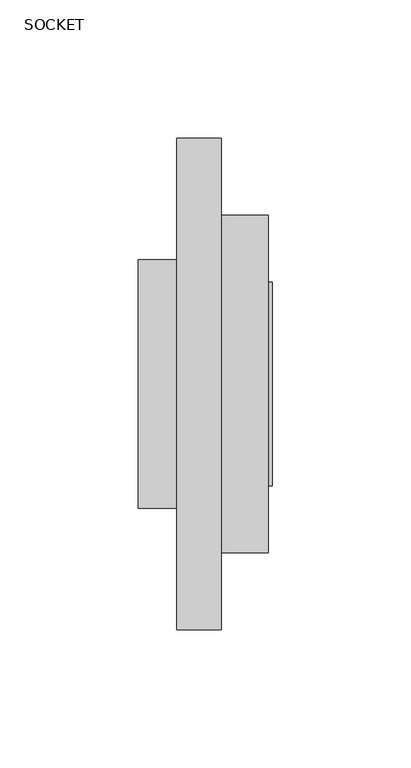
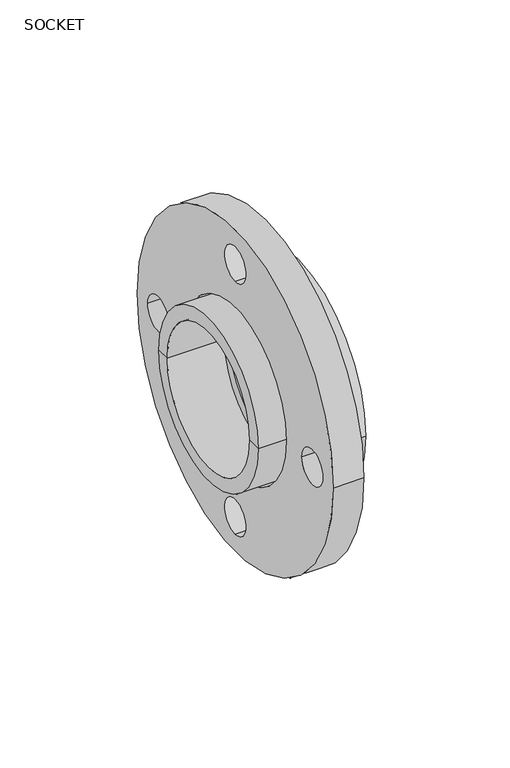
"""IFC4 building model written with IfcOpenShell, lengths in millimetres: valve geometry, Aquatherm - Flange Adapter Socket : SOCKET."""

from ifc_helpers import new_model, si_unit, point, frame, frame_2d, origin, origin_2d, place, context, project, spatial, polyline, circle_curve, trimmed, segment, composite_curve, outline, extrude, source, transform, mapped, element, save
from ifc_brep_helpers import plane_surface, cylinder_surface, revolved_surface, advanced_brep


def socket_53e05073(model_context):
    return source(origin(), model_context, "Body", "SolidModel", [
        extrude(outline(composite_curve([segment(trimmed(circle_curve(origin_2d(), 88.9), [point((-88.9, 0.0))], [point((88.9, 0.0))], False, "CARTESIAN"), True, "CONTINUOUS"), segment(trimmed(circle_curve(origin_2d(), 88.9), [point((88.9, 0.0))], [point((-88.9, 0.0))], False, "CARTESIAN"), True, "CONTINUOUS")], self_intersect=False), holes=[composite_curve([segment(trimmed(circle_curve(origin_2d(), 46.101), [point((-46.101, 0.0))], [point((46.101, 0.0))], True, "CARTESIAN"), True, "CONTINUOUS"), segment(trimmed(circle_curve(origin_2d(), 46.101), [point((46.101, 0.0))], [point((-46.101, 0.0))], True, "CARTESIAN"), True, "CONTINUOUS")], self_intersect=False), composite_curve([segment(trimmed(circle_curve(frame_2d((69.85, 0.0)), 9.525), [point((60.325, 0.0))], [point((79.375, 0.0))], True, "CARTESIAN"), True, "CONTINUOUS"), segment(trimmed(circle_curve(frame_2d((69.85, 0.0)), 9.525), [point((79.375, 0.0))], [point((60.325, 0.0))], True, "CARTESIAN"), True, "CONTINUOUS")], self_intersect=False), composite_curve([segment(trimmed(circle_curve(frame_2d((0.0, -69.85)), 9.525), [point((0.0, -60.325))], [point((0.0, -79.375))], True, "CARTESIAN"), True, "CONTINUOUS"), segment(trimmed(circle_curve(frame_2d((0.0, -69.85)), 9.525), [point((0.0, -79.375))], [point((0.0, -60.325))], True, "CARTESIAN"), True, "CONTINUOUS")], self_intersect=False), composite_curve([segment(trimmed(circle_curve(frame_2d((0.0, 69.85)), 9.525), [point((0.0, 60.325))], [point((0.0, 79.375))], True, "CARTESIAN"), True, "CONTINUOUS"), segment(trimmed(circle_curve(frame_2d((0.0, 69.85)), 9.525), [point((0.0, 79.375))], [point((0.0, 60.325))], True, "CARTESIAN"), True, "CONTINUOUS")], self_intersect=False), composite_curve([segment(trimmed(circle_curve(frame_2d((-69.85, 0.0)), 9.525), [point((-60.325, 0.0))], [point((-79.375, 0.0))], True, "CARTESIAN"), True, "CONTINUOUS"), segment(trimmed(circle_curve(frame_2d((-69.85, 0.0)), 9.525), [point((-79.375, 0.0))], [point((-60.325, 0.0))], True, "CARTESIAN"), True, "CONTINUOUS")], self_intersect=False)]), frame((-16.002, 0.0, 0.0), z_axis=(1.0, 0.0, 0.0), x_axis=(0.0, 1.0, 0.0)), (0.0, 0.0, 1.0), 16.002),
        advanced_brep(
        [(18.542, 31.75, 0.0), (18.542, -31.75, 0.0), (18.542, -36.83, 0.0), (18.542, 36.83, 0.0), (0.0, 31.75, 0.0), (0.0, -31.75, 0.0), (0.0, 37.465, 0.0), (0.0, -37.465, 0.0), (-29.972, 37.465, 0.0), (-29.972, -37.465, 0.0), (-29.972, 44.958, 0.0), (-29.972, -44.958, 0.0), (0.0, 44.958, 0.0), (0.0, -44.958, 0.0), (0.0, 60.96, 0.0), (0.0, -60.96, 0.0), (17.018, 60.96, 0.0), (17.018, -60.96, 0.0), (17.018, 36.83, 0.0), (17.018, -36.83, 0.0)],
        [
            (0, 1, circle_curve(frame((18.542, 0.0, 0.0), z_axis=(-1.0, 0.0, 0.0), x_axis=(0.0, -1.0, 0.0)), 31.75)),
            (1, 2),
            (2, 3, circle_curve(frame((18.542, 0.0, 0.0), z_axis=(1.0, 0.0, 0.0), x_axis=(0.0, -1.0, 0.0)), 36.83)),
            (3, 0),
            (1, 0, circle_curve(frame((18.542, 0.0, 0.0), z_axis=(-1.0, 0.0, 0.0), x_axis=(0.0, -1.0, 0.0)), 31.75)),
            (3, 2, circle_curve(frame((18.542, 0.0, 0.0), z_axis=(1.0, 0.0, 0.0), x_axis=(0.0, -1.0, 0.0)), 36.83)),
            (4, 5, circle_curve(frame((0.0, 0.0, 0.0), z_axis=(-1.0, 0.0, 0.0), x_axis=(0.0, -1.0, 0.0)), 31.75)),
            (5, 1),
            (0, 4),
            (5, 4, circle_curve(frame((0.0, 0.0, 0.0), z_axis=(-1.0, 0.0, 0.0), x_axis=(0.0, -1.0, 0.0)), 31.75)),
            (6, 7, circle_curve(frame((0.0, 0.0, 0.0), z_axis=(-1.0, 0.0, 0.0), x_axis=(0.0, -1.0, 0.0)), 37.465)),
            (7, 5),
            (4, 6),
            (7, 6, circle_curve(frame((0.0, 0.0, 0.0), z_axis=(-1.0, 0.0, 0.0), x_axis=(0.0, -1.0, 0.0)), 37.465)),
            (8, 9, circle_curve(frame((-29.972, 0.0, 0.0), z_axis=(-1.0, 0.0, 0.0), x_axis=(0.0, -1.0, 0.0)), 37.465)),
            (9, 7),
            (6, 8),
            (9, 8, circle_curve(frame((-29.972, 0.0, 0.0), z_axis=(-1.0, 0.0, 0.0), x_axis=(0.0, -1.0, 0.0)), 37.465)),
            (10, 11, circle_curve(frame((-29.972, 0.0, 0.0), z_axis=(-1.0, 0.0, 0.0), x_axis=(0.0, -1.0, 0.0)), 44.958)),
            (11, 9),
            (8, 10),
            (11, 10, circle_curve(frame((-29.972, 0.0, 0.0), z_axis=(-1.0, 0.0, 0.0), x_axis=(0.0, -1.0, 0.0)), 44.958)),
            (12, 13, circle_curve(frame((0.0, 0.0, 0.0), z_axis=(-1.0, 0.0, 0.0), x_axis=(0.0, -1.0, 0.0)), 44.958)),
            (13, 11),
            (10, 12),
            (13, 12, circle_curve(frame((0.0, 0.0, 0.0), z_axis=(-1.0, 0.0, 0.0), x_axis=(0.0, -1.0, 0.0)), 44.958)),
            (14, 15, circle_curve(frame((0.0, 0.0, 0.0), z_axis=(-1.0, 0.0, 0.0), x_axis=(0.0, -1.0, 0.0)), 60.96)),
            (15, 13),
            (12, 14),
            (15, 14, circle_curve(frame((0.0, 0.0, 0.0), z_axis=(-1.0, 0.0, 0.0), x_axis=(0.0, -1.0, 0.0)), 60.96)),
            (16, 17, circle_curve(frame((17.018, 0.0, 0.0), z_axis=(-1.0, 0.0, 0.0), x_axis=(0.0, -1.0, 0.0)), 60.96)),
            (17, 15),
            (14, 16),
            (17, 16, circle_curve(frame((17.018, 0.0, 0.0), z_axis=(-1.0, 0.0, 0.0), x_axis=(0.0, -1.0, 0.0)), 60.96)),
            (18, 19, circle_curve(frame((17.018, 0.0, 0.0), z_axis=(-1.0, 0.0, 0.0), x_axis=(0.0, -1.0, 0.0)), 36.83)),
            (19, 17),
            (16, 18),
            (19, 18, circle_curve(frame((17.018, 0.0, 0.0), z_axis=(-1.0, 0.0, 0.0), x_axis=(0.0, -1.0, 0.0)), 36.83)),
            (2, 19),
            (18, 3),
        ],
        [
            plane_surface(frame((18.542, 0.0, 0.0), z_axis=(1.0, 0.0, 0.0), x_axis=(0.0, -1.0, 0.0))),
            revolved_surface(polyline([(18.541999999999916, -31.75, 0.0), (0.0, -31.75, 0.0)]), (1447.8371939, 0.0, 0.0), (1.0, 0.0, 0.0)),
            plane_surface(frame((0.0, 0.0, 0.0), z_axis=(-1.0, 0.0, 0.0), x_axis=(0.0, -1.0, 0.0))),
            revolved_surface(polyline([(0.0, -37.465, 0.0), (-29.97199999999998, -37.465, 0.0)]), (1447.8371939, 0.0, 0.0), (1.0, 0.0, 0.0)),
            plane_surface(frame((-29.972, 0.0, 0.0), z_axis=(-1.0, 0.0, 0.0), x_axis=(0.0, -1.0, 0.0))),
            cylinder_surface(frame((1447.8371939, 0.0, 0.0), z_axis=(1.0, 0.0, 0.0), x_axis=(0.0, -1.0, 0.0)), 44.958),
            cylinder_surface(frame((1447.8371939, 0.0, 0.0), z_axis=(1.0, 0.0, 0.0), x_axis=(0.0, -1.0, 0.0)), 60.96),
            plane_surface(frame((17.018, 0.0, 0.0), z_axis=(1.0, 0.0, 0.0), x_axis=(0.0, -1.0, 0.0))),
            cylinder_surface(frame((1447.8371939, 0.0, 0.0), z_axis=(1.0, 0.0, 0.0), x_axis=(0.0, -1.0, 0.0)), 36.83),
        ],
        [
            (0, [[1, 2, 3, 4]]),
            (0, [[5, -4, 6, -2]]),
            (1, [[7, 8, -1, 9]]),
            (1, [[10, -9, -5, -8]]),
            (2, [[11, 12, -7, 13]]),
            (2, [[14, -13, -10, -12]]),
            (3, [[15, 16, -11, 17]]),
            (3, [[18, -17, -14, -16]]),
            (4, [[19, 20, -15, 21]]),
            (4, [[22, -21, -18, -20]]),
            (5, [[23, 24, -19, 25]]),
            (5, [[26, -25, -22, -24]]),
            (2, [[27, 28, -23, 29]]),
            (2, [[30, -29, -26, -28]]),
            (6, [[31, 32, -27, 33]]),
            (6, [[34, -33, -30, -32]]),
            (7, [[35, 36, -31, 37]]),
            (7, [[38, -37, -34, -36]]),
            (8, [[-3, 39, -35, 40]]),
            (8, [[-6, -40, -38, -39]]),
        ],
    ),
    ])


if __name__ == "__main__":
    model = new_model("IFC4")
    model_context = context("Model", 3, world=origin())
    ifc_project = project(units=[si_unit("LENGTHUNIT", "METRE", prefix="MILLI")], contexts=[model_context])
    site = spatial("IfcSite", under=ifc_project)
    building = spatial("IfcBuilding", under=site)
    placement = place(None, origin())
    ifc_socket_shape = socket_53e05073(model_context)
    element("IfcValve", 1, ObjectType="Aquatherm - Flange Adapter Socket : SOCKET", at=placement, inside=building, context=model_context, shape_type="MappedRepresentation", body=[
        mapped(ifc_socket_shape, transform((0.0, 0.0, 0.0), x_axis=(1.0, 0.0, 0.0), y_axis=(0.0, 1.0, 0.0), z_axis=(0.0, 0.0, 1.0))),
    ])
    save(model, "model.ifc")
